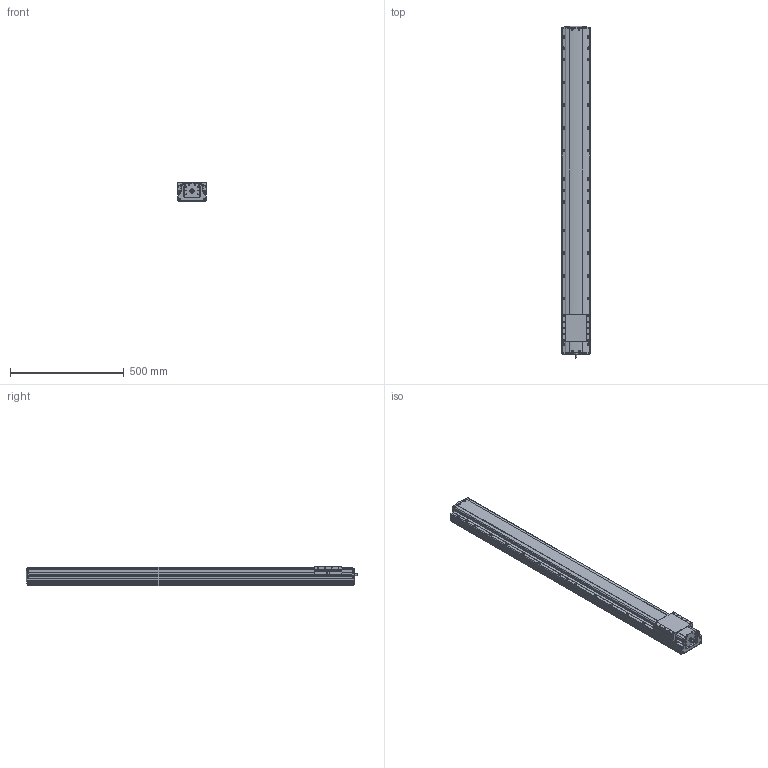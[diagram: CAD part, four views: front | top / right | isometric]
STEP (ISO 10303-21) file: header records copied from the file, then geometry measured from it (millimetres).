
FILE_DESCRIPTION(('STEP AP214'),'1');
FILE_NAME('Z:/Web/3D/PSA125/STP/PSA125-1200 (3D)/PSA125ㅁㅁ-1200.stp','2014-06-23T05:23:14',(' '),(' '),'Spatial InterOp 3D',' ',' ');
FILE_SCHEMA(('automotive_design'));
Length unit declared in the file: millimetre
Products named in the file (18): 스크루 : Round - M4.0 x 10.0; RRCV-PA120; SLIDE; BASE; FRCV-PA120-1(기준 뿔 제거); RR1500; 스크루 : Round - M4.0 x 6.0; 너트 : Square - M10.0 x 220.7419
Bounding box: 125 x 1458.1 x 86 mm (x, y, z)
Volume: 11929516.7 mm3; surface area: 898920.4 mm2
Topology: 18 solids, 18 shells, 1990 faces, 5381 edges, 3414 vertices
Faces by surface type: plane 1026, cylinder 648, cone 228, sphere 32, bspline 31, torus 25
Entity records: 80099 total; most frequent: CARTESIAN_POINT 13591, DIRECTION 10571, ORIENTED_EDGE 10462, EDGE_CURVE 5231, AXIS2_PLACEMENT_3D 3559, LINE 3453, VECTOR 3453, VERTEX_POINT 3414
